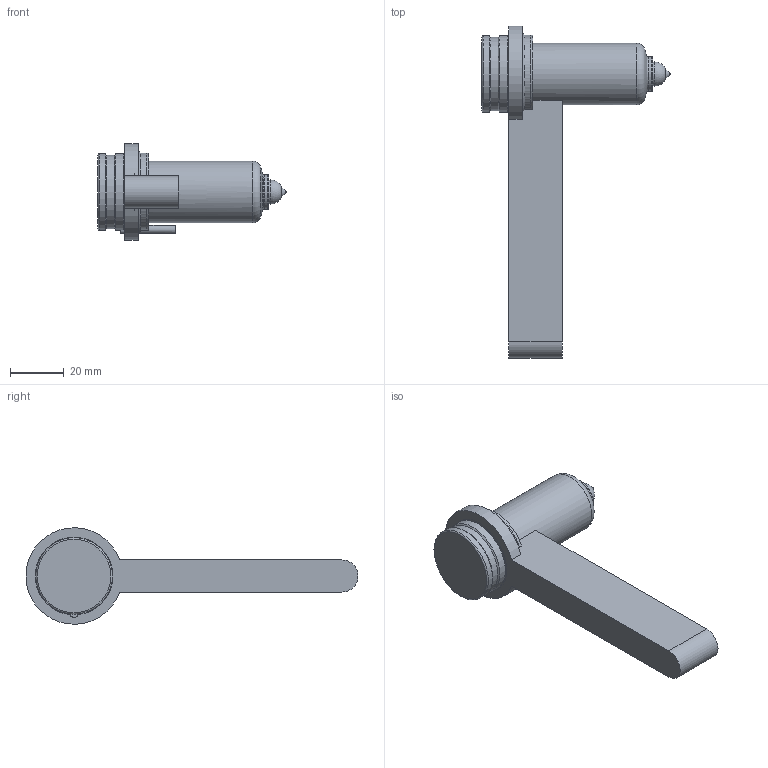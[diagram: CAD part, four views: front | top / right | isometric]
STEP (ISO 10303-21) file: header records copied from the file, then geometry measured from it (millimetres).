
FILE_DESCRIPTION( ( 'STEP AP214' ), '1' );
FILE_NAME( 'S:/PROIECTE_YUDO_2010_dupa_1.07.2010/PROIECTE YUDO 2010 3D_DUPA_1.07.2010/YUEN/YUCZ10-167-YEM15CC70 SECTION/YUCZ10-167CUTOUT.step', '2010-09-06T14:37:47', ( ' ' ), ( ' ' ), 'XStep 1.0', ' ', ' ' );
FILE_SCHEMA( ( 'automotive_design' ) );
Length unit declared in the file: millimetre
Products named in the file (6): 1; 2; 3; 4; 5; 6
Bounding box: 70.2 x 123.94 x 35.97 mm (x, y, z)
Volume: 68394 mm3; surface area: 24544.4 mm2
Topology: 6 solids, 6 shells, 88 faces, 166 edges, 98 vertices
Faces by surface type: cylinder 29, plane 26, cone 20, torus 12, sphere 1
Full cylindrical faces by diameter (mm): 3 x2, 7.497 x1, 7.9 x1, 9 x2, 12.6 x1, 13 x2, 14.1 x1, 15 x1, 15.05 x1, 15.3 x1, 15.5 x1, 18.25 x1, 18.65 x1, 19.25 x1, 23 x3, 27.5 x1, 28.5 x2, 29 x1, 35 x1
Entity records: 2711 total; most frequent: DIRECTION 376, CARTESIAN_POINT 324, ORIENTED_EDGE 214, AXIS2_PLACEMENT_3D 179, EDGE_LOOP 158, FACE_OUTER_BOUND 126, EDGE_CURVE 107, VERTEX_POINT 95
